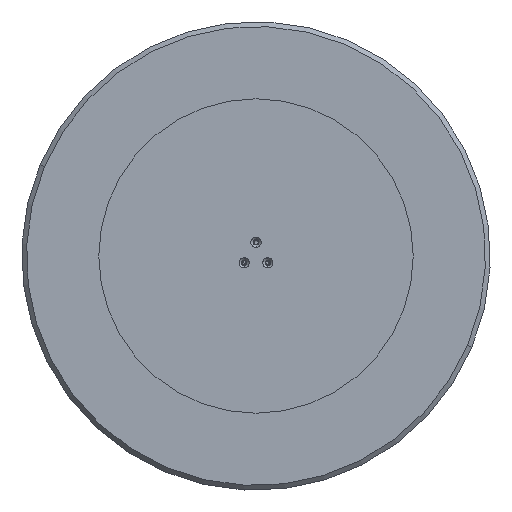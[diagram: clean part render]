
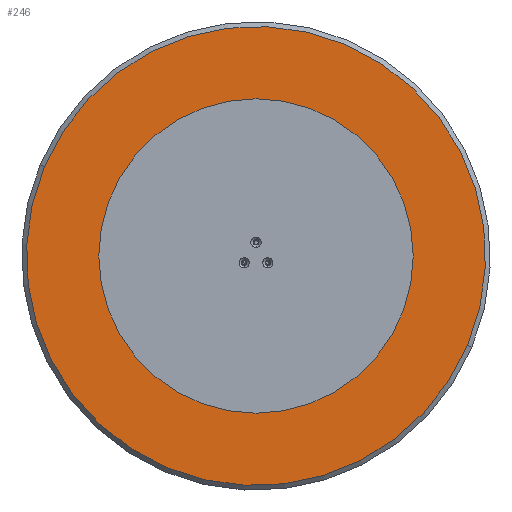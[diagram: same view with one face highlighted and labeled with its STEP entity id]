
A CAD part, front view. The second image highlights one B-rep face of the part: STEP entity #246.
In plain terms, the highlighted planar face has unit normal (0, -1, 0).
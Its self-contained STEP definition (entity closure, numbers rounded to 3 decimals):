
#104 = AXIS2_PLACEMENT_3D ( 'NONE', #3825, #3558, #508 ) ;
#246 = ADVANCED_FACE ( 'NONE', ( #1068 ), #2425, .T. ) ;
#297 = CARTESIAN_POINT ( 'NONE',  ( 0., 0., 0. ) ) ;
#500 = ORIENTED_EDGE ( 'NONE', *, *, #2212, .T. ) ;
#508 = DIRECTION ( 'NONE',  ( 0., 0., -1. ) ) ;
#990 = CARTESIAN_POINT ( 'NONE',  ( 0., 0., 0. ) ) ;
#1068 = FACE_OUTER_BOUND ( 'NONE', #2810, .T. ) ;
#1095 = CIRCLE ( 'NONE', #104, 387. ) ;
#1210 = EDGE_CURVE ( 'NONE', #1241, #3340, #2305, .T. ) ;
#1241 = VERTEX_POINT ( 'NONE', #2992 ) ;
#1288 = ORIENTED_EDGE ( 'NONE', *, *, #1210, .T. ) ;
#1645 = DIRECTION ( 'NONE',  ( 0., -1., 0. ) ) ;
#2018 = AXIS2_PLACEMENT_3D ( 'NONE', #990, #4205, #2653 ) ;
#2027 = CARTESIAN_POINT ( 'NONE',  ( 0., 0., 387. ) ) ;
#2212 = EDGE_CURVE ( 'NONE', #3340, #1241, #1095, .T. ) ;
#2305 = CIRCLE ( 'NONE', #2018, 387. ) ;
#2360 = DIRECTION ( 'NONE',  ( 0., 0., -1. ) ) ;
#2425 = PLANE ( 'NONE',  #3925 ) ;
#2653 = DIRECTION ( 'NONE',  ( 0., 0., -1. ) ) ;
#2810 = EDGE_LOOP ( 'NONE', ( #500, #1288 ) ) ;
#2992 = CARTESIAN_POINT ( 'NONE',  ( 0., 0., -387. ) ) ;
#3340 = VERTEX_POINT ( 'NONE', #2027 ) ;
#3558 = DIRECTION ( 'NONE',  ( 0., -1., 0. ) ) ;
#3825 = CARTESIAN_POINT ( 'NONE',  ( 0., 0., 0. ) ) ;
#3925 = AXIS2_PLACEMENT_3D ( 'NONE', #297, #1645, #2360 ) ;
#4205 = DIRECTION ( 'NONE',  ( 0., -1., 0. ) ) ;
